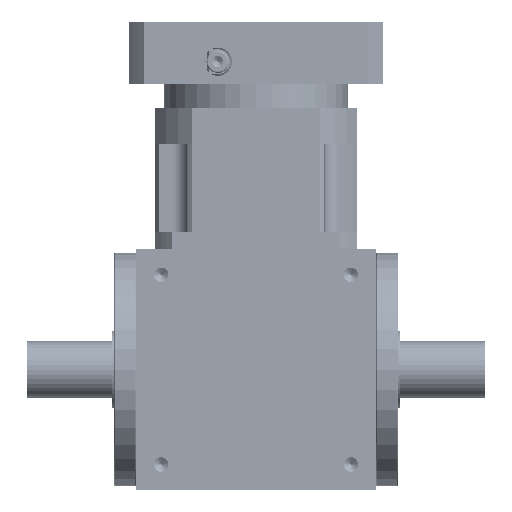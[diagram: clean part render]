
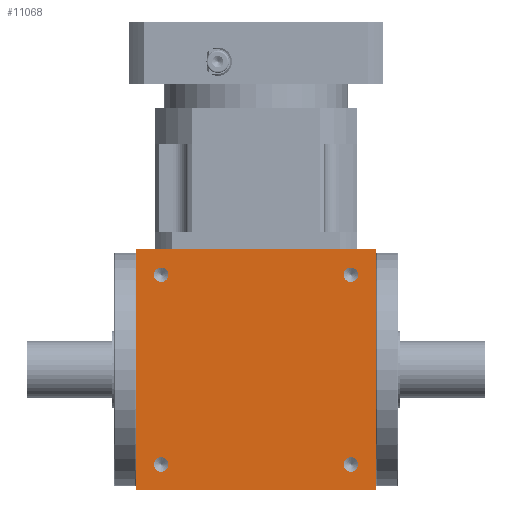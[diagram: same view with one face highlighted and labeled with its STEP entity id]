
A CAD part, front view. The second image highlights one B-rep face of the part: STEP entity #11068.
In plain terms, the highlighted planar face has unit normal (0, -1, 0).
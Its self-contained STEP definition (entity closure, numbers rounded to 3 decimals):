
#612 = DIRECTION ( 'NONE',  ( 0., 0., 1. ) ) ;
#1376 = ORIENTED_EDGE ( 'NONE', *, *, #51505, .F. ) ;
#1861 = CARTESIAN_POINT ( 'NONE',  ( 82.28, -71.559, 102.1 ) ) ;
#2696 = CARTESIAN_POINT ( 'NONE',  ( 100.28, -71.559, -55. ) ) ;
#3996 = DIRECTION ( 'NONE',  ( 0., 0., -1. ) ) ;
#4961 = DIRECTION ( 'NONE',  ( 1., 0., 0. ) ) ;
#5969 = EDGE_CURVE ( 'NONE', #52458, #51796, #61108, .T. ) ;
#6066 = DIRECTION ( 'NONE',  ( 0., -1., 0. ) ) ;
#6147 = CIRCLE ( 'NONE', #9559, 5.1 ) ;
#8083 = FACE_BOUND ( 'NONE', #26491, .T. ) ;
#8443 = DIRECTION ( 'NONE',  ( 0., 0., -1. ) ) ;
#9559 = AXIS2_PLACEMENT_3D ( 'NONE', #101267, #60847, #93265 ) ;
#10678 = DIRECTION ( 'NONE',  ( 0., 0., -1. ) ) ;
#11068 = ADVANCED_FACE ( 'NONE', ( #8083, #80524, #64064, #40592, #87969 ), #73068, .F. ) ;
#11546 = CARTESIAN_POINT ( 'NONE',  ( -69.72, -71.559, 115. ) ) ;
#12075 = ORIENTED_EDGE ( 'NONE', *, *, #39508, .F. ) ;
#12252 = EDGE_CURVE ( 'NONE', #25014, #21583, #38039, .T. ) ;
#12264 = DIRECTION ( 'NONE',  ( 0., -1., 0. ) ) ;
#13506 = VECTOR ( 'NONE', #83127, 1000. ) ;
#13971 = CARTESIAN_POINT ( 'NONE',  ( 100.28, -71.559, 115. ) ) ;
#20148 = EDGE_CURVE ( 'NONE', #52458, #45788, #26127, .T. ) ;
#21501 = ORIENTED_EDGE ( 'NONE', *, *, #50992, .F. ) ;
#21583 = VERTEX_POINT ( 'NONE', #73853 ) ;
#23427 = CARTESIAN_POINT ( 'NONE',  ( -51.72, -71.559, -42.1 ) ) ;
#25014 = VERTEX_POINT ( 'NONE', #53811 ) ;
#25220 = DIRECTION ( 'NONE',  ( 0., -1., 0. ) ) ;
#25795 = AXIS2_PLACEMENT_3D ( 'NONE', #64589, #79996, #612 ) ;
#26013 = CARTESIAN_POINT ( 'NONE',  ( 82.28, -71.559, -42.1 ) ) ;
#26127 = LINE ( 'NONE', #50661, #13506 ) ;
#26491 = EDGE_LOOP ( 'NONE', ( #12075, #29879 ) ) ;
#27563 = DIRECTION ( 'NONE',  ( 0., 0., -1. ) ) ;
#28925 = LINE ( 'NONE', #36912, #30534 ) ;
#29879 = ORIENTED_EDGE ( 'NONE', *, *, #12252, .F. ) ;
#30534 = VECTOR ( 'NONE', #4961, 1000. ) ;
#30684 = CIRCLE ( 'NONE', #83387, 5.1 ) ;
#32702 = AXIS2_PLACEMENT_3D ( 'NONE', #90158, #25220, #57757 ) ;
#32993 = CARTESIAN_POINT ( 'NONE',  ( -69.72, -71.559, 115. ) ) ;
#36879 = CARTESIAN_POINT ( 'NONE',  ( -69.72, -71.559, -55. ) ) ;
#36912 = CARTESIAN_POINT ( 'NONE',  ( -69.72, -71.559, -55. ) ) ;
#37860 = ORIENTED_EDGE ( 'NONE', *, *, #5969, .F. ) ;
#38039 = CIRCLE ( 'NONE', #78775, 5.1 ) ;
#38475 = CARTESIAN_POINT ( 'NONE',  ( 82.28, -71.559, 97. ) ) ;
#39508 = EDGE_CURVE ( 'NONE', #21583, #25014, #65047, .T. ) ;
#39536 = CIRCLE ( 'NONE', #68554, 5.1 ) ;
#40128 = VERTEX_POINT ( 'NONE', #2696 ) ;
#40592 = FACE_BOUND ( 'NONE', #94600, .T. ) ;
#41522 = VERTEX_POINT ( 'NONE', #23427 ) ;
#43182 = CIRCLE ( 'NONE', #95832, 5.1 ) ;
#45415 = VECTOR ( 'NONE', #69595, 1000. ) ;
#45788 = VERTEX_POINT ( 'NONE', #36879 ) ;
#46105 = ORIENTED_EDGE ( 'NONE', *, *, #50530, .F. ) ;
#46279 = EDGE_CURVE ( 'NONE', #102598, #73877, #39536, .T. ) ;
#47512 = DIRECTION ( 'NONE',  ( 0., 0., -1. ) ) ;
#49007 = EDGE_LOOP ( 'NONE', ( #68542, #98873, #37860, #71587 ) ) ;
#50530 = EDGE_CURVE ( 'NONE', #67100, #41522, #103263, .T. ) ;
#50661 = CARTESIAN_POINT ( 'NONE',  ( -69.72, -71.559, 115. ) ) ;
#50674 = CARTESIAN_POINT ( 'NONE',  ( -51.72, -71.559, 97. ) ) ;
#50992 = EDGE_CURVE ( 'NONE', #41522, #67100, #6147, .T. ) ;
#51356 = CARTESIAN_POINT ( 'NONE',  ( -51.72, -71.559, -37. ) ) ;
#51505 = EDGE_CURVE ( 'NONE', #74752, #71388, #82873, .T. ) ;
#51796 = VERTEX_POINT ( 'NONE', #62521 ) ;
#52458 = VERTEX_POINT ( 'NONE', #32993 ) ;
#53044 = CARTESIAN_POINT ( 'NONE',  ( 82.28, -71.559, -37. ) ) ;
#53269 = VECTOR ( 'NONE', #8443, 1000. ) ;
#53811 = CARTESIAN_POINT ( 'NONE',  ( -51.72, -71.559, 102.1 ) ) ;
#57757 = DIRECTION ( 'NONE',  ( 0., 0., -1. ) ) ;
#60847 = DIRECTION ( 'NONE',  ( 0., -1., 0. ) ) ;
#61108 = LINE ( 'NONE', #11546, #45415 ) ;
#62067 = EDGE_LOOP ( 'NONE', ( #97921, #92447 ) ) ;
#62521 = CARTESIAN_POINT ( 'NONE',  ( 100.28, -71.559, 115. ) ) ;
#63912 = CARTESIAN_POINT ( 'NONE',  ( 82.28, -71.559, 91.9 ) ) ;
#64064 = FACE_BOUND ( 'NONE', #75158, .T. ) ;
#64589 = CARTESIAN_POINT ( 'NONE',  ( -69.72, -71.559, 115. ) ) ;
#65047 = CIRCLE ( 'NONE', #32702, 5.1 ) ;
#65469 = LINE ( 'NONE', #13971, #53269 ) ;
#65762 = DIRECTION ( 'NONE',  ( 0., -1., 0. ) ) ;
#67100 = VERTEX_POINT ( 'NONE', #97488 ) ;
#67553 = CARTESIAN_POINT ( 'NONE',  ( 82.28, -71.559, 97. ) ) ;
#68542 = ORIENTED_EDGE ( 'NONE', *, *, #80716, .T. ) ;
#68554 = AXIS2_PLACEMENT_3D ( 'NONE', #67553, #100030, #27563 ) ;
#69595 = DIRECTION ( 'NONE',  ( 1., 0., 0. ) ) ;
#71388 = VERTEX_POINT ( 'NONE', #26013 ) ;
#71587 = ORIENTED_EDGE ( 'NONE', *, *, #20148, .T. ) ;
#72161 = DIRECTION ( 'NONE',  ( 0., -1., 0. ) ) ;
#73068 = PLANE ( 'NONE',  #25795 ) ;
#73853 = CARTESIAN_POINT ( 'NONE',  ( -51.72, -71.559, 91.9 ) ) ;
#73877 = VERTEX_POINT ( 'NONE', #1861 ) ;
#74752 = VERTEX_POINT ( 'NONE', #82021 ) ;
#75158 = EDGE_LOOP ( 'NONE', ( #81467, #1376 ) ) ;
#78429 = DIRECTION ( 'NONE',  ( 0., -1., 0. ) ) ;
#78775 = AXIS2_PLACEMENT_3D ( 'NONE', #50674, #12264, #10678 ) ;
#79996 = DIRECTION ( 'NONE',  ( 0., 1., 0. ) ) ;
#80524 = FACE_BOUND ( 'NONE', #62067, .T. ) ;
#80716 = EDGE_CURVE ( 'NONE', #45788, #40128, #28925, .T. ) ;
#81209 = DIRECTION ( 'NONE',  ( 0., 0., -1. ) ) ;
#81407 = EDGE_CURVE ( 'NONE', #73877, #102598, #30684, .T. ) ;
#81467 = ORIENTED_EDGE ( 'NONE', *, *, #94142, .F. ) ;
#82021 = CARTESIAN_POINT ( 'NONE',  ( 82.28, -71.559, -31.9 ) ) ;
#82873 = CIRCLE ( 'NONE', #89595, 5.1 ) ;
#83127 = DIRECTION ( 'NONE',  ( 0., 0., -1. ) ) ;
#83387 = AXIS2_PLACEMENT_3D ( 'NONE', #38475, #78429, #47512 ) ;
#87969 = FACE_OUTER_BOUND ( 'NONE', #49007, .T. ) ;
#89595 = AXIS2_PLACEMENT_3D ( 'NONE', #105185, #72161, #81209 ) ;
#90158 = CARTESIAN_POINT ( 'NONE',  ( -51.72, -71.559, 97. ) ) ;
#91010 = EDGE_CURVE ( 'NONE', #51796, #40128, #65469, .T. ) ;
#92447 = ORIENTED_EDGE ( 'NONE', *, *, #81407, .F. ) ;
#93265 = DIRECTION ( 'NONE',  ( 0., 0., -1. ) ) ;
#94142 = EDGE_CURVE ( 'NONE', #71388, #74752, #43182, .T. ) ;
#94600 = EDGE_LOOP ( 'NONE', ( #21501, #46105 ) ) ;
#95832 = AXIS2_PLACEMENT_3D ( 'NONE', #53044, #6066, #3996 ) ;
#96226 = AXIS2_PLACEMENT_3D ( 'NONE', #51356, #65762, #99287 ) ;
#97488 = CARTESIAN_POINT ( 'NONE',  ( -51.72, -71.559, -31.9 ) ) ;
#97921 = ORIENTED_EDGE ( 'NONE', *, *, #46279, .F. ) ;
#98873 = ORIENTED_EDGE ( 'NONE', *, *, #91010, .F. ) ;
#99287 = DIRECTION ( 'NONE',  ( 0., 0., -1. ) ) ;
#100030 = DIRECTION ( 'NONE',  ( 0., -1., 0. ) ) ;
#101267 = CARTESIAN_POINT ( 'NONE',  ( -51.72, -71.559, -37. ) ) ;
#102598 = VERTEX_POINT ( 'NONE', #63912 ) ;
#103263 = CIRCLE ( 'NONE', #96226, 5.1 ) ;
#105185 = CARTESIAN_POINT ( 'NONE',  ( 82.28, -71.559, -37. ) ) ;
